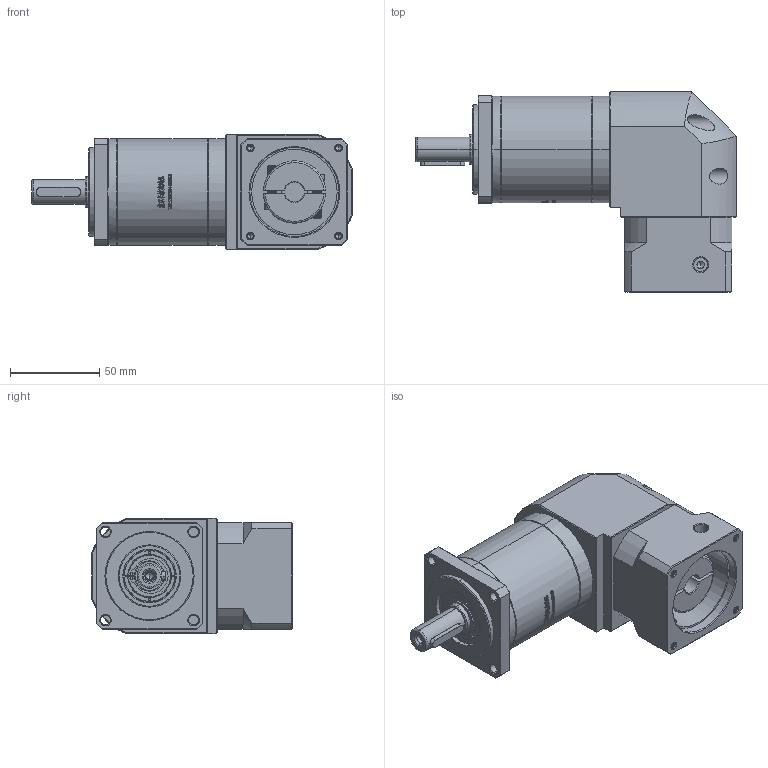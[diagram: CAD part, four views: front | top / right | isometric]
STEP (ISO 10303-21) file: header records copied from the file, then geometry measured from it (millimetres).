
FILE_DESCRIPTION (( 'STEP AP214' ), '1' );
FILE_NAME ('ZFR60-D14-L2-11-50-70-M4.STEP', '2022-04-20T08:33:36', ( '' ), ( 'Microsoft' ), 'SwSTEP 2.0', 'SolidWorks 2016', '' );
FILE_SCHEMA (( 'AUTOMOTIVE_DESIGN' ));
Length unit declared in the file: millimetre
Products named in the file (1): ZFR60-D14-L2-11-50-70-M4
Bounding box: 180 x 112.7 x 65 mm (x, y, z)
Volume: 586890.1 mm3; surface area: 81788 mm2
Topology: 5 solids, 6 shells, 2684 faces, 7320 edges, 4773 vertices
Faces by surface type: plane 1397, bspline 579, cylinder 394, cone 288, torus 26
Entity records: 146704 total; most frequent: CARTESIAN_POINT 54848, ORIENTED_EDGE 14596, DIRECTION 10512, EDGE_CURVE 7298, VERTEX_POINT 4773, VECTOR 4376, LINE 4376, AXIS2_PLACEMENT_3D 3068
